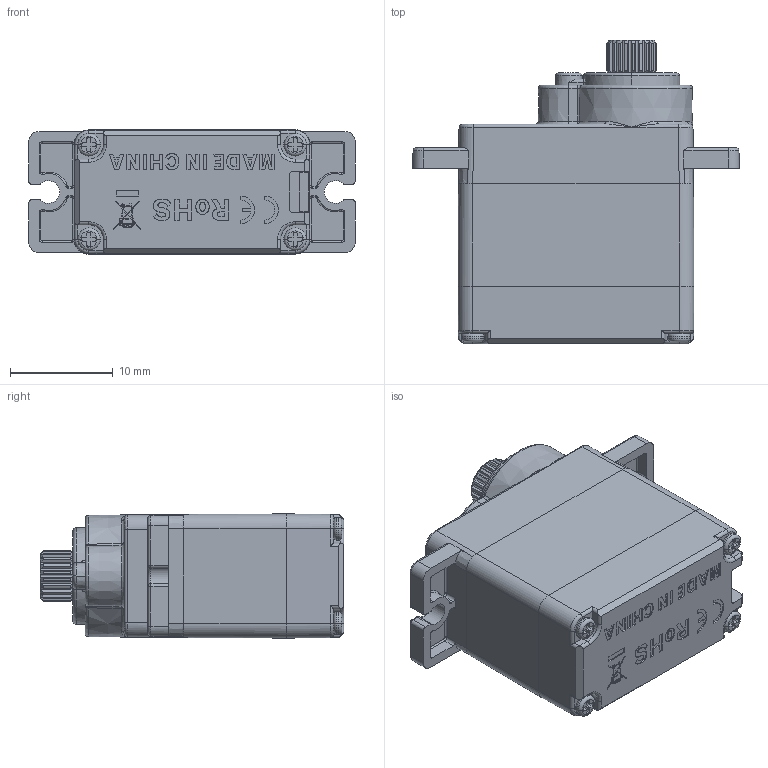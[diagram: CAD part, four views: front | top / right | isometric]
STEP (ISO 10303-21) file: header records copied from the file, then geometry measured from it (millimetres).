
FILE_DESCRIPTION((''),'2;1');
FILE_NAME('DDJ-9G4-B09','2024-01-13T',('Administrator'),(''),'PRO/ENGINEER BY PARAMETRIC TECHNOLOGY CORPORATION, 2010280','PRO/ENGINEER BY PARAMETRIC TECHNOLOGY CORPORATION, 2010280','');
FILE_SCHEMA(('CONFIG_CONTROL_DESIGN','SHAPE_APPEARANCE_LAYERS_GROUPS'));
Length unit declared in the file: millimetre
Products named in the file (1): DDJ-9G4-B09
Bounding box: 31.8 x 29.6 x 12.1 mm (x, y, z)
Volume: 6512.9 mm3; surface area: 2688.8 mm2
Topology: 1 solids, 1 shells, 853 faces, 2229 edges, 1421 vertices
Faces by surface type: plane 428, cylinder 239, extrusion 75, torus 49, bspline 33, sphere 17, cone 12
Entity records: 35469 total; most frequent: CARTESIAN_POINT 8042, ORIENTED_EDGE 4444, DIRECTION 3928, PRESENTATION_STYLE_ASSIGNMENT 2243, STYLED_ITEM 2223, CURVE_STYLE 2222, EDGE_CURVE 2222, VERTEX_POINT 1421
